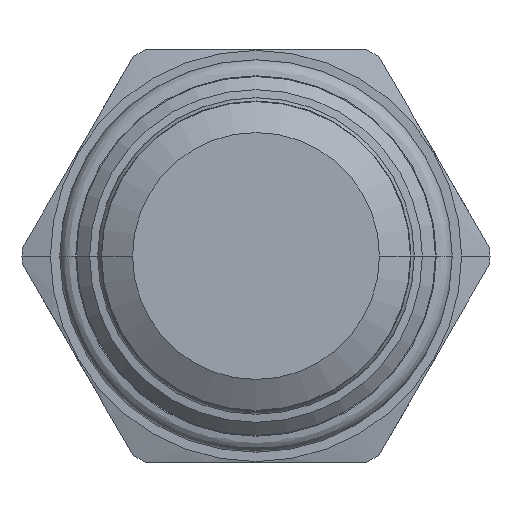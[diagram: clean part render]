
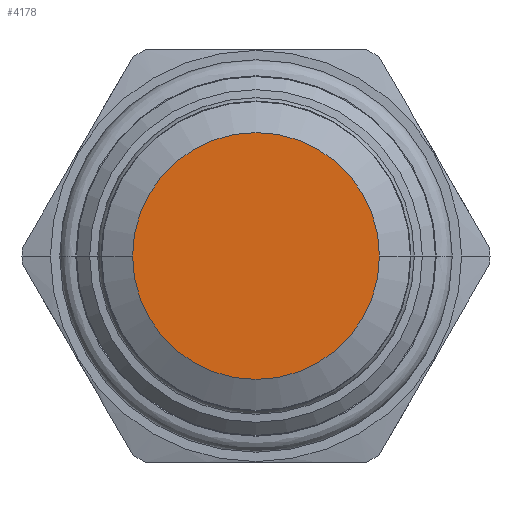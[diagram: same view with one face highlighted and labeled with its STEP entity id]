
A CAD part, front view. The second image highlights one B-rep face of the part: STEP entity #4178.
In plain terms, the highlighted planar face has unit normal (0, -1, 0).
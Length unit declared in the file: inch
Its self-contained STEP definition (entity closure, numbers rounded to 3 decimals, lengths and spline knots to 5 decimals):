
#1467=CARTESIAN_POINT('',(0.,-1.843,0.));
#1468=DIRECTION('',(0.,1.,0.));
#1469=DIRECTION('',(1.,0.,0.));
#1470=AXIS2_PLACEMENT_3D('',#1467,#1468,#1469);
#1472=CARTESIAN_POINT('',(0.,-1.843,0.));
#1473=DIRECTION('',(0.,1.,0.));
#1474=DIRECTION('',(-1.,0.,0.));
#1475=AXIS2_PLACEMENT_3D('',#1472,#1473,#1474);
#1937=CARTESIAN_POINT('',(0.44892,-1.843,0.));
#1938=CARTESIAN_POINT('',(-0.44892,-1.843,0.));
#1939=VERTEX_POINT('',#1937);
#1940=VERTEX_POINT('',#1938);
#4168=CARTESIAN_POINT('',(0.,-1.843,0.));
#4169=DIRECTION('',(0.,1.,0.));
#4170=DIRECTION('',(1.,0.,0.));
#4171=AXIS2_PLACEMENT_3D('',#4168,#4169,#4170);
#4172=PLANE('',#4171);
#4173=ORIENTED_EDGE('',*,*,#4158,.T.);
#4175=ORIENTED_EDGE('',*,*,#4174,.T.);
#4176=EDGE_LOOP('',(#4173,#4175));
#4177=FACE_OUTER_BOUND('',#4176,.F.);
#4178=ADVANCED_FACE('',(#4177),#4172,.F.);
#1471=CIRCLE('',#1470,0.44892);
#1476=CIRCLE('',#1475,0.44892);
#4158=EDGE_CURVE('',#1939,#1940,#1471,.T.);
#4174=EDGE_CURVE('',#1940,#1939,#1476,.T.);
